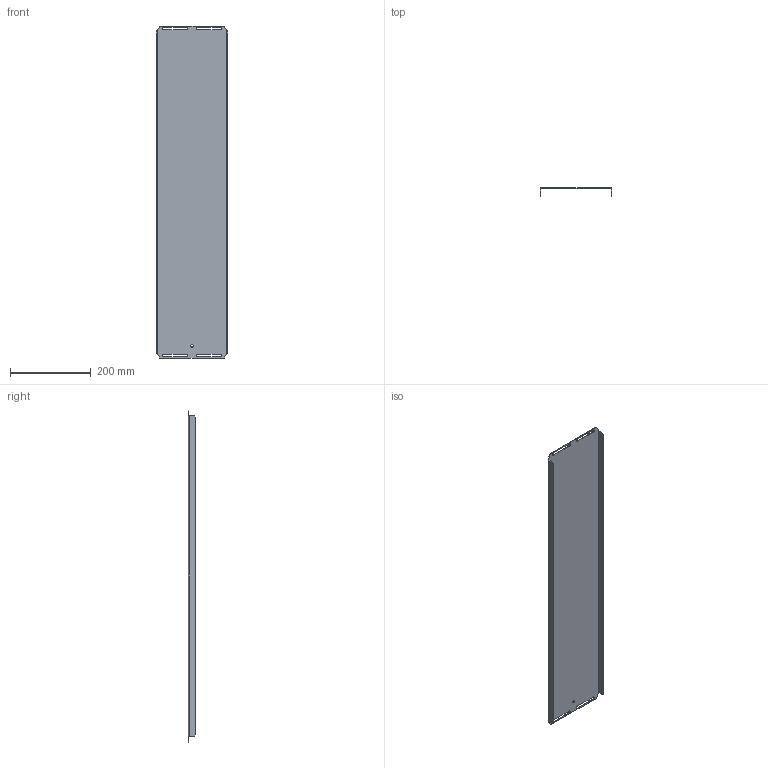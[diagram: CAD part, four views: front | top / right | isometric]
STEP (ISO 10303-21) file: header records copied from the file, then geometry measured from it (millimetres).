
FILE_DESCRIPTION (( 'STEP AP214' ), '1' );
FILE_NAME ('PKV 100 SH Ïàíåëü ñòàöèîíàðíàÿ.STEP', '2023-10-09T14:50:10', ( '' ), ( '' ), 'SwSTEP 2.0', 'SolidWorks 2022', '' );
FILE_SCHEMA (( 'AUTOMOTIVE_DESIGN' ));
Length unit declared in the file: millimetre
Products named in the file (1): PKV 100 SH Панель стационарная
Bounding box: 177 x 19 x 820.5 mm (x, y, z)
Volume: 204378 mm3; surface area: 343712.3 mm2
Topology: 1 solids, 1 shells, 48 faces, 122 edges, 76 vertices
Faces by surface type: plane 30, cylinder 14, bspline 4
Entity records: 1592 total; most frequent: CARTESIAN_POINT 411, ORIENTED_EDGE 244, DIRECTION 216, EDGE_CURVE 122, LINE 86, VECTOR 86, VERTEX_POINT 76, AXIS2_PLACEMENT_3D 65
